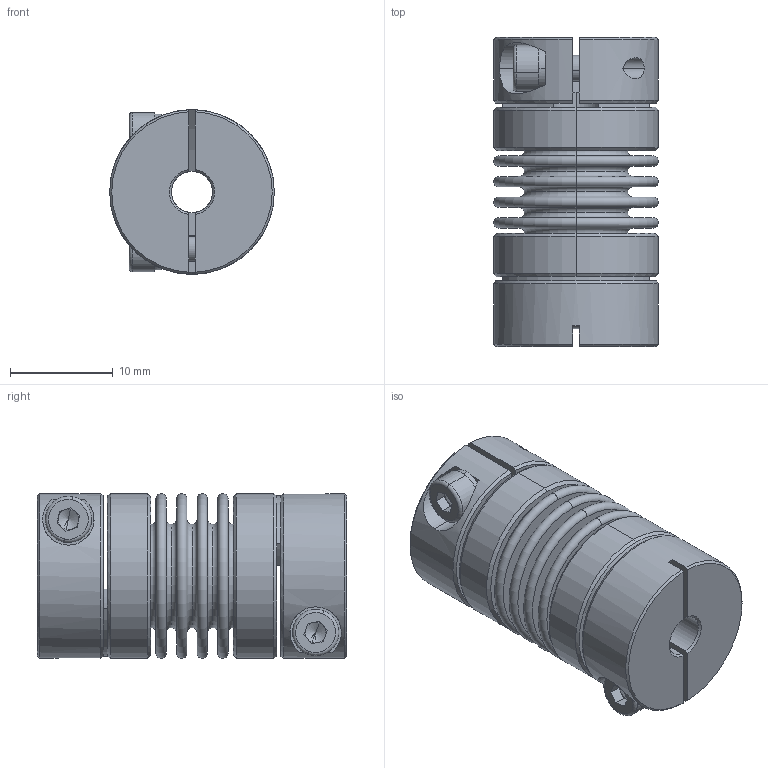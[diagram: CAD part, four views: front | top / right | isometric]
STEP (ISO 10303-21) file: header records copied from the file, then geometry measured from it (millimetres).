
FILE_DESCRIPTION (( 'STEP AP203' ), '1' );
FILE_NAME ('LB-B-D16L30-4-5.STEP', '2021-11-04T01:10:55', ( '' ), ( '' ), 'SwSTEP 2.0', 'SolidWorks 2018', '' );
FILE_SCHEMA (( 'CONFIG_CONTROL_DESIGN' ));
Length unit declared in the file: millimetre
Products named in the file (2): LB-B-D16L30-4-5; 零件1^LB-B-D16L30 波纹管联轴器-组装体
Assembly tree (1 placements, depth 2):
  LB-B-D16L30-4-5
    零件1^LB-B-D16L30 波纹管联轴器-组装体
Bounding box: 16 x 30.04 x 16 mm (x, y, z)
Volume: 3339.7 mm3; surface area: 6476.3 mm2
Topology: 1 solids, 1 shells, 254 faces, 586 edges, 362 vertices
Faces by surface type: plane 86, torus 68, cylinder 66, cone 34
Entity records: 7660 total; most frequent: CARTESIAN_POINT 1472, DIRECTION 1420, ORIENTED_EDGE 1164, AXIS2_PLACEMENT_3D 622, EDGE_CURVE 582, CIRCLE 364, VERTEX_POINT 362, EDGE_LOOP 296
